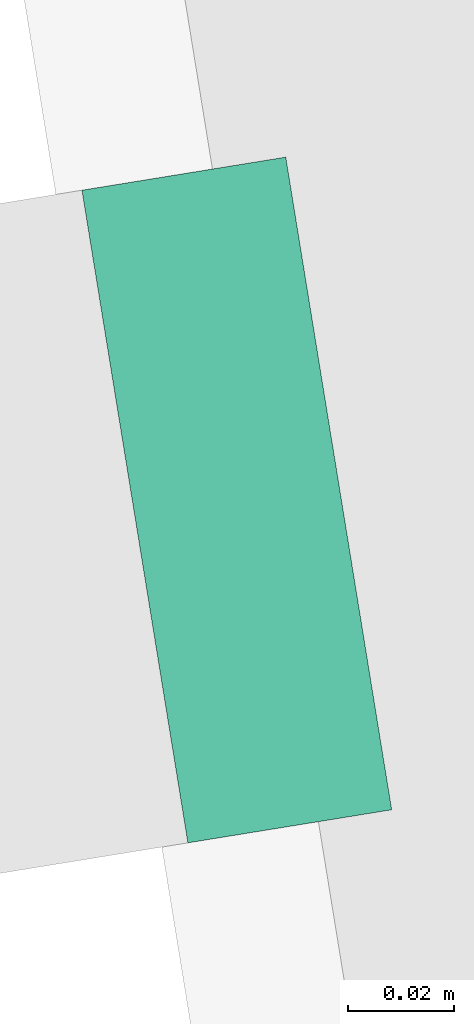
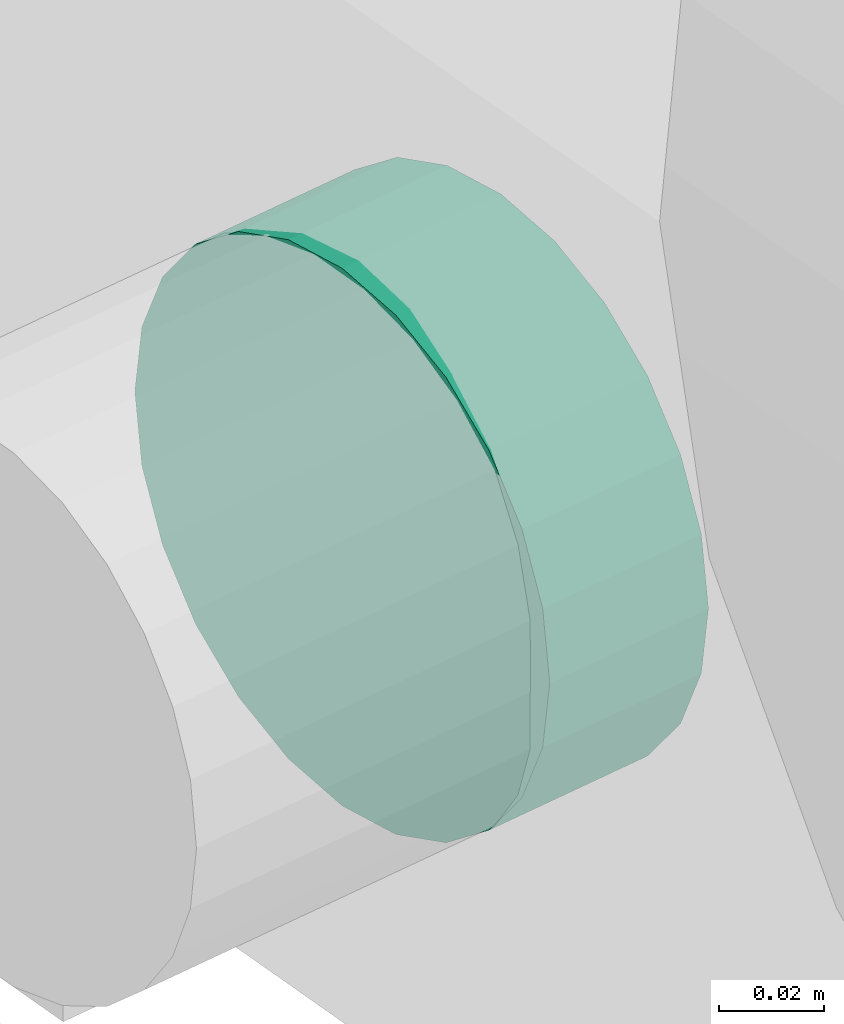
# One storey, part 31 of 39: 1 flow fitting.
"""IFC2X3 building model written with IfcOpenShell, lengths in millimetres."""

import ifcopenshell
import ifcopenshell.guid

model = None  # the IFC model being written
_history = None  # IfcOwnerHistory: only IFC2X3 demands one
_inside = {}  # id of a spatial element -> (the spatial element, [elements in it])
_under = {}  # id of a project, library or spatial element -> (it, [spatial elements below it])
_declared = {}  # id of a project -> (the project, [libraries it declares])
_typed = {}  # id of a type object -> (the type object, [elements of that type])
_made_of = {}  # id of a material, layer set ... -> (it, [elements and type objects made of it])


def new_model(schema):
    """Start an empty IFC model of exactly this schema.

    Asked for "IFC4X3", IfcOpenShell would pick the latest addendum, in which some entities
    have other attributes; the version numbers below select the first issue.
    IFC2X3 requires an IfcOwnerHistory on every rooted entity: one is made here for all.
    """
    global model, _history
    if schema == "IFC4X3":
        model = ifcopenshell.file(schema_version=(4, 3, 0, 0))
    else:
        model = ifcopenshell.file(schema=schema)
    _inside.clear()
    _under.clear()
    _declared.clear()
    _typed.clear()
    _made_of.clear()
    _history = None
    if model.schema == "IFC2X3":
        org = make("IfcOrganization", Name="unknown")
        user = make(
            "IfcPersonAndOrganization",
            ThePerson=make("IfcPerson", FamilyName="unknown"),
            TheOrganization=org,
        )
        app = make(
            "IfcApplication",
            ApplicationDeveloper=org,
            Version="unknown",
            ApplicationFullName="unknown",
            ApplicationIdentifier="unknown",
        )
        _history = make(
            "IfcOwnerHistory",
            OwningUser=user,
            OwningApplication=app,
            ChangeAction="ADDED",
            CreationDate=0,
        )
    return model


def make(cls, **values):
    """One entity of the class cls with the attributes given. An attribute that is None is left unset."""
    return model.create_entity(
        cls, **{name: value for name, value in values.items() if value is not None}
    )


def entity(cls, *values):
    """Any entity or typed value of the class cls, its attributes in the order of the schema. None: left unset."""
    e = model.create_entity(cls)
    for i, value in enumerate(values):
        if value is not None:
            e[i] = value
    return e


def rooted(cls, **values):
    """An entity with a GlobalId (a new one), such as an element, a storey or a relation."""
    return make(cls, GlobalId=ifcopenshell.guid.new(), OwnerHistory=_history, **values)


def si_unit(unit_type, name, prefix=None):
    """IfcSIUnit, for example si_unit("LENGTHUNIT", "METRE", prefix="MILLI")."""
    return make("IfcSIUnit", UnitType=unit_type, Prefix=prefix, Name=name)


def converted_unit(unit_type, name, factor, base, dimensions=None, offset=None):
    """IfcConversionBasedUnit, such as the inch: factor (a typed value) times the base unit."""
    return make(
        "IfcConversionBasedUnit"
        if offset is None
        else "IfcConversionBasedUnitWithOffset",
        ConversionOffset=offset,
        Dimensions=None
        if dimensions is None
        else entity("IfcDimensionalExponents", *dimensions),
        UnitType=unit_type,
        Name=name,
        ConversionFactor=make(
            "IfcMeasureWithUnit", ValueComponent=factor, UnitComponent=base
        ),
    )


def derived_unit(unit_type, elements):
    """IfcDerivedUnit: a product of units, each with its exponent."""
    return make(
        "IfcDerivedUnit",
        Elements=[
            make("IfcDerivedUnitElement", Unit=unit, Exponent=power)
            for unit, power in elements
        ],
        UnitType=unit_type,
    )


def assignment(units):
    """IfcUnitAssignment: the units of a project."""
    return None if units is None else make("IfcUnitAssignment", Units=units)


def point(xyz):
    """IfcCartesianPoint."""
    return None if xyz is None else make("IfcCartesianPoint", Coordinates=xyz)


def direction(xyz):
    """IfcDirection."""
    return None if xyz is None else make("IfcDirection", DirectionRatios=xyz)


def frame(location, z_axis=None, x_axis=None):
    """IfcAxis2Placement3D, a coordinate frame: its origin and axes. An axis left out is left unset."""
    return make(
        "IfcAxis2Placement3D",
        Location=point(location),
        Axis=direction(z_axis),
        RefDirection=direction(x_axis),
    )


def origin():
    """The frame at (0, 0, 0) with its axes left unset."""
    return frame((0.0, 0.0, 0.0))


def origin_with_axes():
    """The frame at (0, 0, 0) with the z axis (0, 0, 1) and the x axis (1, 0, 0) written out."""
    return frame((0.0, 0.0, 0.0), z_axis=(0.0, 0.0, 1.0), x_axis=(1.0, 0.0, 0.0))


def place(relative_to, where):
    """IfcLocalPlacement: puts the frame where relative to a parent placement (None: the world)."""
    return make(
        "IfcLocalPlacement", PlacementRelTo=relative_to, RelativePlacement=where
    )


def context(
    kind, dimensions, precision=None, world=None, true_north=None, identifier=None
):
    """IfcGeometricRepresentationContext, for example the 3D "Model" context."""
    return make(
        "IfcGeometricRepresentationContext",
        ContextIdentifier=identifier,
        ContextType=kind,
        CoordinateSpaceDimension=dimensions,
        Precision=precision,
        WorldCoordinateSystem=world,
        TrueNorth=true_north,
    )


def subcontext(parent, identifier, kind, view, scale=None):
    """IfcGeometricRepresentationSubContext, for example "Body" below "Model"."""
    return make(
        "IfcGeometricRepresentationSubContext",
        ContextIdentifier=identifier,
        ContextType=kind,
        ParentContext=parent,
        TargetScale=scale,
        TargetView=view,
    )


def project(units=None, contexts=None):
    """IfcProject with its units and contexts."""
    return rooted(
        "IfcProject",
        Name="project",
        RepresentationContexts=contexts,
        UnitsInContext=assignment(units),
    )


def spatial(cls, under=None, at=None, **own):
    """A site, building, storey or space (cls), placed at a placement, below another one or the project."""
    s = rooted(cls, ObjectPlacement=at, **own)
    if under is not None:
        _under.setdefault(under.id(), (under, []))[1].append(s)
    return s


def faces_of(points, faces, orient=None, outer=None):
    """IfcFace entities. A face is a list of loops; a loop is a list of indices into points, from 0.

    orient and outer hold one flag for each loop. By default every Orientation is true, the
    first loop of a face is its IfcFaceOuterBound and the others are IfcFaceBound.
    """
    made = []
    for i, loops in enumerate(faces):
        bounds = []
        for j, loop in enumerate(loops):
            is_outer = j == 0 if outer is None else outer[i][j]
            bounds.append(
                make(
                    "IfcFaceOuterBound" if is_outer else "IfcFaceBound",
                    Bound=make("IfcPolyLoop", Polygon=[points[k] for k in loop]),
                    Orientation=True if orient is None else orient[i][j],
                )
            )
        made.append(make("IfcFace", Bounds=bounds))
    return made


def faceted_brep(points, faces, orient=None, outer=None, voids=None):
    """IfcFacetedBrep: a solid bounded by flat faces; with voids (closed shells), ...WithVoids."""
    shared = [point(p) for p in points]
    hull = make("IfcClosedShell", CfsFaces=faces_of(shared, faces, orient, outer))
    if voids is None:
        return make("IfcFacetedBrep", Outer=hull)
    return make(
        "IfcFacetedBrepWithVoids",
        Outer=hull,
        Voids=[
            make(cls, CfsFaces=faces_of(shared, fs, o, b)) for cls, fs, o, b in voids
        ],
    )


def shape(context_of_items, identifier, shape_type, items):
    """IfcShapeRepresentation: the items that make up one representation, for example the "Body"."""
    return make(
        "IfcShapeRepresentation",
        ContextOfItems=context_of_items,
        RepresentationIdentifier=identifier,
        RepresentationType=shape_type,
        Items=items,
    )


def source(mapping_origin, context_of_items, identifier, shape_type, items):
    """IfcRepresentationMap: a shape defined once, which mapped items show again and again."""
    return make(
        "IfcRepresentationMap",
        MappingOrigin=mapping_origin,
        MappedRepresentation=shape(context_of_items, identifier, shape_type, items),
    )


def transform(
    local_origin,
    x_axis=None,
    y_axis=None,
    z_axis=None,
    scale=None,
    scale2=None,
    scale3=None,
    uniform=True,
):
    """IfcCartesianTransformationOperator3D, or its non-uniform kind. x_axis, y_axis, z_axis: its Axis1, 2, 3."""
    if uniform:
        return make(
            "IfcCartesianTransformationOperator3D",
            Axis1=direction(x_axis),
            Axis2=direction(y_axis),
            LocalOrigin=point(local_origin),
            Scale=scale,
            Axis3=direction(z_axis),
        )
    return make(
        "IfcCartesianTransformationOperator3DnonUniform",
        Axis1=direction(x_axis),
        Axis2=direction(y_axis),
        LocalOrigin=point(local_origin),
        Scale=scale,
        Axis3=direction(z_axis),
        Scale2=scale2,
        Scale3=scale3,
    )


def mapped(mapping_source, mapping_target):
    """IfcMappedItem: shows the shape of a source again, moved by a transform."""
    return make(
        "IfcMappedItem", MappingSource=mapping_source, MappingTarget=mapping_target
    )


def material(Name=None, Category=None):
    """IfcMaterial."""
    return make("IfcMaterial", Name=Name, Category=Category)


def made_of(thing, what):
    """Note that an element or type object is made of a material, layer set ...; save() writes the relation."""
    if what is not None:
        _made_of.setdefault(what.id(), (what, []))[1].append(thing)
    return thing


def type_object(cls, material=None, **own):
    """A type object (cls), such as IfcWallType, which elements share."""
    return made_of(rooted(cls, **own), material)


def element(
    cls,
    number,
    at=None,
    inside=None,
    cuts=None,
    type_object=None,
    material=None,
    context=None,
    identifier="Body",
    shape_type=None,
    held_by="IfcProductDefinitionShape",
    body=None,
    shapes=None,
    **own,
):
    """One element of the class cls, such as IfcWall. Its Tag is "e" and its number.

    at: its placement. inside: the storey or other place that contains it. cuts: it is an
    opening in that element (IfcRelVoidsElement). A single representation is given by context,
    identifier, shape_type and body (its items); several are given by shapes. held_by: the class
    of the entity that holds the representations. save() writes the other relations.
    """
    e = rooted(cls, Tag="e%d" % number, ObjectPlacement=at, **own)
    if body is not None:
        shapes = [shape(context, identifier, shape_type, body)]
    if shapes is not None:
        e.Representation = make(held_by, Representations=shapes)
    if inside is not None:
        _inside.setdefault(inside.id(), (inside, []))[1].append(e)
    if cuts is not None:
        rooted(
            "IfcRelVoidsElement", RelatingBuildingElement=cuts, RelatedOpeningElement=e
        )
    if type_object is not None:
        _typed.setdefault(type_object.id(), (type_object, []))[1].append(e)
    return made_of(e, material)


def aggregate(whole, parts):
    """IfcRelAggregates: a whole, such as a stair, and the parts it consists of."""
    return rooted("IfcRelAggregates", RelatingObject=whole, RelatedObjects=parts)


def save(model, path):
    """Write the relations noted so far, then the file.

    IfcRelAggregates (storeys below a building ...), IfcRelContainedInSpatialStructure (elements
    in a storey), IfcRelDefinesByType, IfcRelAssociatesMaterial and IfcRelDeclares: one each for
    every whole, place, type object, material and project.
    """
    for whole, parts in _under.values():
        aggregate(whole, parts)
    for where, things in _inside.values():
        rooted(
            "IfcRelContainedInSpatialStructure",
            RelatedElements=things,
            RelatingStructure=where,
        )
    for kind, things in _typed.values():
        rooted("IfcRelDefinesByType", RelatedObjects=things, RelatingType=kind)
    for what, things in _made_of.values():
        rooted("IfcRelAssociatesMaterial", RelatedObjects=things, RelatingMaterial=what)
    for by, libraries in _declared.values():
        rooted("IfcRelDeclares", RelatingContext=by, RelatedDefinitions=libraries)
    model.write(path)


model = new_model("IFC2X3")

# Units and contexts
plan_context = context("Plan", 3, precision=1e-05, world=origin_with_axes())
model_context = context("Model", 3, precision=0.01, world=origin(), true_north=direction((6.12323399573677e-17, 1.0)))
body_context = subcontext(model_context, "Body", "Model", "MODEL_VIEW")
ifc_project = project(units=[converted_unit("PLANEANGLEUNIT", "DEGREE", entity("IfcPositiveLengthMeasure", 0.0174532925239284), si_unit("PLANEANGLEUNIT", "RADIAN"), dimensions=[0, 0, 0, 0, 0, 0, 0]), si_unit("AREAUNIT", "SQUARE_METRE"), si_unit("LENGTHUNIT", "METRE", prefix="MILLI"), si_unit("MASSUNIT", "GRAM", prefix="KILO"), si_unit("POWERUNIT", "WATT"), si_unit("PRESSUREUNIT", "PASCAL", prefix="KILO"), si_unit("FORCEUNIT", "NEWTON", prefix="KILO"), si_unit("ELECTRICVOLTAGEUNIT", "VOLT"), si_unit("ELECTRICCURRENTUNIT", "AMPERE"), si_unit("THERMODYNAMICTEMPERATUREUNIT", "DEGREE_CELSIUS"), si_unit("TIMEUNIT", "SECOND"), si_unit("VOLUMEUNIT", "CUBIC_METRE"), derived_unit("LINEARVELOCITYUNIT", [(si_unit("LENGTHUNIT", "METRE"), 1), (si_unit("TIMEUNIT", "SECOND"), -1)]), derived_unit("VOLUMETRICFLOWRATEUNIT", [(si_unit("VOLUMEUNIT", "CUBIC_METRE"), 1), (si_unit("TIMEUNIT", "SECOND"), -1)]), derived_unit("THERMALTRANSMITTANCEUNIT", [(si_unit("POWERUNIT", "WATT"), 1), (si_unit("THERMODYNAMICTEMPERATUREUNIT", "KELVIN"), -1), (si_unit("AREAUNIT", "SQUARE_METRE"), -1)]), derived_unit("SOUNDPRESSUREUNIT", [(si_unit("PRESSUREUNIT", "PASCAL"), 1)])], contexts=[model_context, plan_context])

# Site, building, storey
site_placement = place(None, frame((-0.00071070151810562, 0.00438415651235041, 0.0), z_axis=(0.0, 0.0, 1.0), x_axis=(-0.160236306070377, 0.987078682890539, 0.0)))
site = spatial("IfcSite", under=ifc_project, at=site_placement, Name="Default", CompositionType="ELEMENT")
building_placement = place(site_placement, origin_with_axes())
building = spatial("IfcBuilding", under=site, at=building_placement, CompositionType="ELEMENT")
storey_placement = place(building_placement, frame((0.0, 0.0, 58999.9999999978), z_axis=(0.0, 0.0, 1.0), x_axis=(1.0, 0.0, 0.0)))
storey = spatial("IfcBuildingStorey", under=building, at=storey_placement, Name="Nivå F", CompositionType="ELEMENT", Elevation=58999.9999999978)

# Flow fitting
ifc_material = material(Name="<Unnamed>")
duct_fitting_type = type_object("IfcDuctFittingType", Name="magicirc_tapoutlet_1:magicirc_tapoutlet_001", PredefinedType="NOTDEFINED", material=ifc_material)
shared_shape = source(origin(), body_context, "Body", "Brep", [
    faceted_brep([(-14.0345408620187, 0.0, -62.5000000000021), (-14.0345408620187, -16.1761903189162, -60.3703641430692), (-14.0345408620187, -31.250000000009, -54.1265877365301), (-14.0345408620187, -44.1941738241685, -44.194173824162), (-14.0345408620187, -54.1265877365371, -31.2500000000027), (-14.0345408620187, -60.3703641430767, -16.1761903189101), (-14.0345408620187, -62.5000000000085, 0.0), (-14.0345408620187, -60.3703641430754, 16.1761903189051), (-14.0345408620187, -54.1265877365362, 31.2499999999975), (-14.0345408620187, -44.1941738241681, 44.1941738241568), (-14.0345408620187, -31.2500000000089, 54.1265877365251), (-14.0345408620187, -16.1761903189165, 60.3703641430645), (-14.0345408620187, 0.0, 62.4999999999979), (-14.0345408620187, 16.1761903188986, 60.3703641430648), (-14.0345408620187, 31.249999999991, 54.1265877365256), (-14.0345408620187, 44.1941738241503, 44.1941738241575), (-14.0345408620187, 54.1265877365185, 31.2499999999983), (-14.0345408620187, 60.3703641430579, 16.176190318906), (-14.0345408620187, 62.4999999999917, 0.0), (-14.0345408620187, 60.3703641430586, -16.1761903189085), (-14.0345408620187, 54.1265877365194, -31.2500000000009), (-14.0345408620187, 44.1941738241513, -44.1941738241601), (-14.0345408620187, 31.2499999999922, -54.1265877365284), (-14.0345408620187, 16.1761903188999, -60.3703641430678), (0.0, 0.0, 62.4999999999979), (25.0, 0.0, 62.4999999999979), (25.0, 16.1761903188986, 60.3703641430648), (0.0, 16.1761903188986, 60.3703641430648), (25.0, 31.249999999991, 54.1265877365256), (0.0, 31.249999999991, 54.1265877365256), (25.0, 44.1941738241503, 44.1941738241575), (0.0, 44.1941738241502, 44.1941738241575), (0.0, 54.1265877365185, 31.2499999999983), (25.0, 54.1265877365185, 31.2499999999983), (25.0, 60.3703641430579, 16.176190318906), (0.0, 60.3703641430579, 16.176190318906), (25.0, 62.4999999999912, 0.0), (0.0, 62.4999999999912, 0.0), (25.0, 60.3703641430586, -16.1761903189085), (0.0, 60.3703641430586, -16.1761903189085), (25.0, 54.1265877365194, -31.2500000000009), (0.0, 54.1265877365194, -31.2500000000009), (25.0, 44.1941738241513, -44.1941738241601), (0.0, 44.1941738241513, -44.1941738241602), (0.0, 31.2499999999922, -54.1265877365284), (25.0, 31.2499999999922, -54.1265877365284), (25.0, 16.1761903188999, -60.3703641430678), (0.0, 16.1761903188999, -60.3703641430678), (25.0, 0.0, -62.5000000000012), (0.0, 0.0, -62.5000000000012), (25.0, -16.1761903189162, -60.3703641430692), (0.0, -16.1761903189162, -60.3703641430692), (25.0, -31.250000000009, -54.1265877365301), (0.0, -31.250000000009, -54.1265877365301), (25.0, -44.1941738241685, -44.194173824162), (0.0, -44.1941738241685, -44.194173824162), (0.0, -54.1265877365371, -31.2500000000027), (25.0, -54.1265877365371, -31.2500000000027), (25.0, -60.3703641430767, -16.1761903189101), (0.0, -60.3703641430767, -16.17619031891), (25.0, -62.50000000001, 0.0), (0.0, -62.50000000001, 0.0), (25.0, -60.3703641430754, 16.1761903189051), (0.0, -60.3703641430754, 16.176190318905), (25.0, -54.1265877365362, 31.2499999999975), (0.0, -54.1265877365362, 31.2499999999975), (25.0, -44.1941738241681, 44.1941738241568), (0.0, -44.1941738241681, 44.1941738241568), (0.0, -31.2500000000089, 54.1265877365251), (25.0, -31.2500000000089, 54.1265877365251), (25.0, -16.1761903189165, 60.3703641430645), (0.0, -16.1761903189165, 60.3703641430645)], [[[0, 1, 2, 3, 4, 5, 6, 7, 8, 9, 10, 11, 12, 13, 14, 15, 16, 17, 18, 19, 20, 21, 22, 23]], [[12, 24, 25, 26, 27, 13]], [[13, 27, 26, 28, 29, 14]], [[14, 29, 28, 30, 31, 15]], [[16, 32, 33, 34, 35, 17]], [[17, 35, 34, 36, 37, 18]], [[15, 31, 30, 33, 32, 16]], [[18, 37, 36, 38, 39, 19]], [[19, 39, 38, 40, 41, 20]], [[20, 41, 40, 42, 43, 21]], [[22, 44, 45, 46, 47, 23]], [[23, 47, 46, 48, 49, 0]], [[21, 43, 42, 45, 44, 22]], [[0, 49, 48, 50, 51, 1]], [[1, 51, 50, 52, 53, 2]], [[2, 53, 52, 54, 55, 3]], [[4, 56, 57, 58, 59, 5]], [[5, 59, 58, 60, 61, 6]], [[3, 55, 54, 57, 56, 4]], [[6, 61, 60, 62, 63, 7]], [[7, 63, 62, 64, 65, 8]], [[8, 65, 64, 66, 67, 9]], [[10, 68, 69, 70, 71, 11]], [[11, 71, 70, 25, 24, 12]], [[9, 67, 66, 69, 68, 10]], [[46, 45, 42, 40, 38, 36, 34, 33, 30, 28, 26, 25, 70, 69, 66, 64, 62, 60, 58, 57, 54, 52, 50, 48]]]),
    faceted_brep([(25.0, 16.1761903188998, -60.3703641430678), (25.0, 31.2499999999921, -54.1265877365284), (25.0, 44.1941738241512, -44.1941738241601), (25.0, 54.1265877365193, -31.2500000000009), (25.0, 60.3703641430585, -16.1761903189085), (25.0, 62.4999999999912, 0.0), (25.0, 60.3703641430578, 16.176190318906), (25.0, 54.1265877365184, 31.2499999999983), (25.0, 44.1941738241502, 44.1941738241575), (25.0, 31.2499999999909, 54.1265877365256), (25.0, 16.1761903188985, 60.3703641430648), (25.0, 0.0, 62.4999999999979), (25.0, -16.1761903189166, 60.3703641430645), (25.0, -31.250000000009, 54.1265877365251), (25.0, -44.1941738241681, 44.1941738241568), (25.0, -54.1265877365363, 31.2499999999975), (25.0, -60.3703641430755, 16.1761903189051), (25.0, -62.5000000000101, 0.0), (25.0, -60.3703641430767, -16.1761903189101), (25.0, -54.1265877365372, -31.2500000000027), (25.0, -44.1941738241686, -44.194173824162), (25.0, -31.2500000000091, -54.1265877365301), (25.0, -16.1761903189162, -60.3703641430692), (25.0, 0.0, -62.5000000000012), (0.0, 0.0, 62.4999999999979), (0.0, 16.1761903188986, 60.3703641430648), (-14.0345408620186, 16.1761903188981, 60.3703641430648), (-14.0345408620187, 0.0, 62.4999999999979), (0.0, 31.249999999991, 54.1265877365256), (-14.0345408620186, 31.2499999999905, 54.1265877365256), (0.0, 44.1941738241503, 44.1941738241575), (-14.0345408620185, 44.1941738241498, 44.1941738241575), (0.0, 54.1265877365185, 31.2499999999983), (0.0, 60.3703641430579, 16.176190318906), (-14.0345408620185, 60.3703641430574, 16.176190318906), (-14.0345408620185, 54.126587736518, 31.2499999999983), (0.0, 62.4999999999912, 0.0), (-14.0345408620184, 62.4999999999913, 0.0), (0.0, 60.3703641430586, -16.1761903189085), (-14.0345408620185, 60.3703641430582, -16.1761903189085), (0.0, 54.1265877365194, -31.2500000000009), (-14.0345408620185, 54.1265877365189, -31.2500000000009), (0.0, 44.1941738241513, -44.1941738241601), (-14.0345408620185, 44.1941738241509, -44.1941738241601), (0.0, 31.2499999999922, -54.1265877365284), (0.0, 16.1761903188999, -60.3703641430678), (-14.0345408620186, 16.1761903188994, -60.3703641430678), (-14.0345408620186, 31.2499999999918, -54.1265877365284), (0.0, 0.0, -62.5000000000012), (-14.0345408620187, 0.0, -62.5000000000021), (0.0, -16.1761903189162, -60.3703641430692), (-14.0345408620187, -16.1761903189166, -60.3703641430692), (0.0, -31.250000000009, -54.1265877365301), (-14.0345408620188, -31.2500000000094, -54.1265877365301), (0.0, -44.1941738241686, -44.194173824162), (-14.0345408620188, -44.194173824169, -44.194173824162), (0.0, -54.1265877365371, -31.2500000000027), (0.0, -60.3703641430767, -16.1761903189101), (-14.0345408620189, -60.3703641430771, -16.1761903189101), (-14.0345408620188, -54.1265877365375, -31.2500000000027), (0.0, -62.50000000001, 0.0), (-14.0345408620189, -62.500000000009, 0.0), (0.0, -60.3703641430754, 16.1761903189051), (-14.0345408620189, -60.3703641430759, 16.1761903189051), (0.0, -54.1265877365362, 31.2499999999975), (-14.0345408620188, -54.1265877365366, 31.2499999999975), (0.0, -44.1941738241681, 44.1941738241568), (-14.0345408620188, -44.1941738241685, 44.1941738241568), (0.0, -31.2500000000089, 54.1265877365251), (0.0, -16.1761903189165, 60.3703641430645), (-14.0345408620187, -16.176190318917, 60.3703641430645), (-14.0345408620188, -31.2500000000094, 54.1265877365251)], [[[0, 1, 2, 3, 4, 5, 6, 7, 8, 9, 10, 11, 12, 13, 14, 15, 16, 17, 18, 19, 20, 21, 22, 23]], [[24, 11, 10, 25, 26, 27]], [[25, 10, 9, 28, 29, 26]], [[28, 9, 8, 30, 31, 29]], [[32, 7, 6, 33, 34, 35]], [[33, 6, 5, 36, 37, 34]], [[30, 8, 7, 32, 35, 31]], [[36, 5, 4, 38, 39, 37]], [[38, 4, 3, 40, 41, 39]], [[40, 3, 2, 42, 43, 41]], [[44, 1, 0, 45, 46, 47]], [[45, 0, 23, 48, 49, 46]], [[42, 2, 1, 44, 47, 43]], [[48, 23, 22, 50, 51, 49]], [[50, 22, 21, 52, 53, 51]], [[52, 21, 20, 54, 55, 53]], [[56, 19, 18, 57, 58, 59]], [[57, 18, 17, 60, 61, 58]], [[54, 20, 19, 56, 59, 55]], [[60, 17, 16, 62, 63, 61]], [[62, 16, 15, 64, 65, 63]], [[64, 15, 14, 66, 67, 65]], [[68, 13, 12, 69, 70, 71]], [[69, 12, 11, 24, 27, 70]], [[66, 14, 13, 68, 71, 67]], [[49, 51, 53, 55, 59, 58, 61, 63, 65, 67, 71, 70, 27, 26, 29, 31, 35, 34, 37, 39, 41, 43, 47, 46]]]),
    faceted_brep([(-14.0345408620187, 0.0, -62.5000000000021), (-14.0345408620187, -16.1761903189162, -60.3703641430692), (-14.0345408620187, -31.250000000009, -54.1265877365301), (-14.0345408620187, -44.1941738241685, -44.194173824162), (-14.0345408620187, -54.1265877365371, -31.2500000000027), (-14.0345408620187, -60.3703641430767, -16.1761903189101), (-14.0345408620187, -62.5000000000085, 0.0), (-14.0345408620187, -60.3703641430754, 16.1761903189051), (-14.0345408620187, -54.1265877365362, 31.2499999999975), (-14.0345408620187, -44.1941738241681, 44.1941738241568), (-14.0345408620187, -31.2500000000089, 54.1265877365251), (-14.0345408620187, -16.1761903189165, 60.3703641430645), (-14.0345408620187, 0.0, 62.4999999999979), (-14.0345408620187, 16.1761903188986, 60.3703641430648), (-14.0345408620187, 31.249999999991, 54.1265877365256), (-14.0345408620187, 44.1941738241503, 44.1941738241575), (-14.0345408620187, 54.1265877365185, 31.2499999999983), (-14.0345408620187, 60.3703641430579, 16.176190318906), (-14.0345408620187, 62.4999999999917, 0.0), (-14.0345408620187, 60.3703641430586, -16.1761903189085), (-14.0345408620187, 54.1265877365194, -31.2500000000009), (-14.0345408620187, 44.1941738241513, -44.1941738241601), (-14.0345408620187, 31.2499999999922, -54.1265877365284), (-14.0345408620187, 16.1761903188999, -60.3703641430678), (0.0, 0.0, 62.4999999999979), (25.0, 0.0, 62.4999999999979), (25.0, 16.1761903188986, 60.3703641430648), (0.0, 16.1761903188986, 60.3703641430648), (25.0, 31.249999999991, 54.1265877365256), (0.0, 31.249999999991, 54.1265877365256), (25.0, 44.1941738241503, 44.1941738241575), (0.0, 44.1941738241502, 44.1941738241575), (0.0, 54.1265877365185, 31.2499999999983), (25.0, 54.1265877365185, 31.2499999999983), (25.0, 60.3703641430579, 16.176190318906), (0.0, 60.3703641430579, 16.176190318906), (25.0, 62.4999999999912, 0.0), (0.0, 62.4999999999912, 0.0), (25.0, 60.3703641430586, -16.1761903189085), (0.0, 60.3703641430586, -16.1761903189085), (25.0, 54.1265877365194, -31.2500000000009), (0.0, 54.1265877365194, -31.2500000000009), (25.0, 44.1941738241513, -44.1941738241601), (0.0, 44.1941738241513, -44.1941738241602), (0.0, 31.2499999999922, -54.1265877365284), (25.0, 31.2499999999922, -54.1265877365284), (25.0, 16.1761903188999, -60.3703641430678), (0.0, 16.1761903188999, -60.3703641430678), (25.0, 0.0, -62.5000000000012), (0.0, 0.0, -62.5000000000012), (25.0, -16.1761903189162, -60.3703641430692), (0.0, -16.1761903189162, -60.3703641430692), (25.0, -31.250000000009, -54.1265877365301), (0.0, -31.250000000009, -54.1265877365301), (25.0, -44.1941738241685, -44.194173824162), (0.0, -44.1941738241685, -44.194173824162), (0.0, -54.1265877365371, -31.2500000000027), (25.0, -54.1265877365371, -31.2500000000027), (25.0, -60.3703641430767, -16.1761903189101), (0.0, -60.3703641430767, -16.17619031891), (25.0, -62.50000000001, 0.0), (0.0, -62.50000000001, 0.0), (25.0, -60.3703641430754, 16.1761903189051), (0.0, -60.3703641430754, 16.176190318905), (25.0, -54.1265877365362, 31.2499999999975), (0.0, -54.1265877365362, 31.2499999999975), (25.0, -44.1941738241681, 44.1941738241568), (0.0, -44.1941738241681, 44.1941738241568), (0.0, -31.2500000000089, 54.1265877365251), (25.0, -31.2500000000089, 54.1265877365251), (25.0, -16.1761903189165, 60.3703641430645), (0.0, -16.1761903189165, 60.3703641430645)], [[[0, 1, 2, 3, 4, 5, 6, 7, 8, 9, 10, 11, 12, 13, 14, 15, 16, 17, 18, 19, 20, 21, 22, 23]], [[12, 24, 25, 26, 27, 13]], [[13, 27, 26, 28, 29, 14]], [[14, 29, 28, 30, 31, 15]], [[16, 32, 33, 34, 35, 17]], [[17, 35, 34, 36, 37, 18]], [[15, 31, 30, 33, 32, 16]], [[18, 37, 36, 38, 39, 19]], [[19, 39, 38, 40, 41, 20]], [[20, 41, 40, 42, 43, 21]], [[22, 44, 45, 46, 47, 23]], [[23, 47, 46, 48, 49, 0]], [[21, 43, 42, 45, 44, 22]], [[0, 49, 48, 50, 51, 1]], [[1, 51, 50, 52, 53, 2]], [[2, 53, 52, 54, 55, 3]], [[4, 56, 57, 58, 59, 5]], [[5, 59, 58, 60, 61, 6]], [[3, 55, 54, 57, 56, 4]], [[6, 61, 60, 62, 63, 7]], [[7, 63, 62, 64, 65, 8]], [[8, 65, 64, 66, 67, 9]], [[10, 68, 69, 70, 71, 11]], [[11, 71, 70, 25, 24, 12]], [[9, 67, 66, 69, 68, 10]], [[46, 45, 42, 40, 38, 36, 34, 33, 30, 28, 26, 25, 70, 69, 66, 64, 62, 60, 58, 57, 54, 52, 50, 48]]]),
])
flow_fitting_placement = place(storey_placement, frame((771617.878767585, -502246.834705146, 3130.0), z_axis=(0.0, 0.0, 1.0), x_axis=(0.0, 1.0, 0.0)))
element("IfcFlowFitting", 1, at=flow_fitting_placement, inside=storey, type_object=duct_fitting_type, material=ifc_material, Name="magicirc_tapoutlet_1:magicirc_tapoutlet_001", ObjectType="magicirc_tapoutlet_1:magicirc_tapoutlet_001", context=body_context, shape_type="MappedRepresentation", body=[
    mapped(shared_shape, transform((0.0, 0.0, 0.0), scale=1.0)),
])

save(model, "model.ifc")
